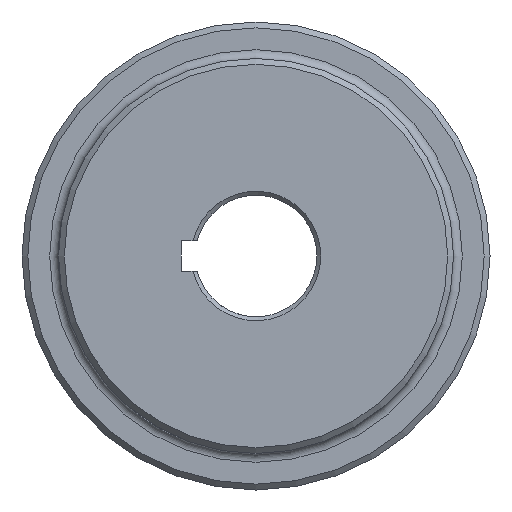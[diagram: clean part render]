
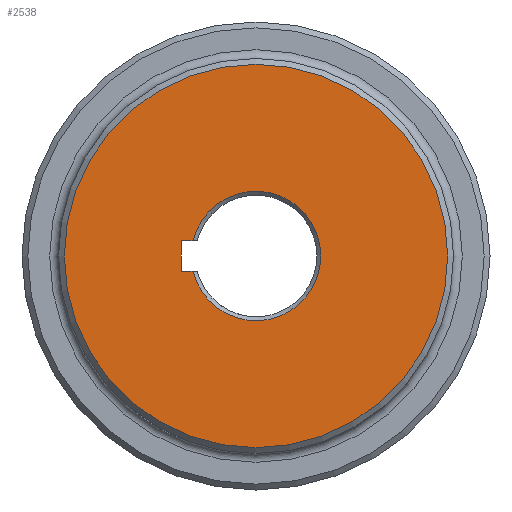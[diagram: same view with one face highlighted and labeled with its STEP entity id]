
A CAD part, left-side view. The second image highlights one B-rep face of the part: STEP entity #2538.
In plain terms, the highlighted planar face has unit normal (-1, 0, 0).
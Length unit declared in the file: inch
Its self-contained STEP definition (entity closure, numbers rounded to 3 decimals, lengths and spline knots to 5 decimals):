
#20 = DIRECTION ( 'NONE',  ( 0., 1., 0. ) ) ;
#77 = FACE_OUTER_BOUND ( 'NONE', #2687, .T. ) ;
#116 = EDGE_LOOP ( 'NONE', ( #317, #1576, #1918, #2028 ) ) ;
#231 = DIRECTION ( 'NONE',  ( 0., -1., 0. ) ) ;
#232 = CARTESIAN_POINT ( 'NONE',  ( 0., 0., -1.97 ) ) ;
#255 = DIRECTION ( 'NONE',  ( -1., 0., 0. ) ) ;
#284 = VERTEX_POINT ( 'NONE', #1498 ) ;
#317 = ORIENTED_EDGE ( 'NONE', *, *, #590, .F. ) ;
#319 = CARTESIAN_POINT ( 'NONE',  ( 0., 0.6467, -0.156 ) ) ;
#338 = EDGE_CURVE ( 'NONE', #2551, #2551, #2708, .T. ) ;
#341 = CARTESIAN_POINT ( 'NONE',  ( 0., 0., 0. ) ) ;
#388 = VECTOR ( 'NONE', #231, 39.37008 ) ;
#465 = LINE ( 'NONE', #1154, #2718 ) ;
#590 = EDGE_CURVE ( 'NONE', #876, #2226, #2744, .T. ) ;
#603 = DIRECTION ( 'NONE',  ( 0., 0., -1. ) ) ;
#648 = ORIENTED_EDGE ( 'NONE', *, *, #338, .T. ) ;
#689 = AXIS2_PLACEMENT_3D ( 'NONE', #1555, #2578, #2713 ) ;
#769 = EDGE_CURVE ( 'NONE', #284, #2706, #1177, .T. ) ;
#876 = VERTEX_POINT ( 'NONE', #2642 ) ;
#928 = AXIS2_PLACEMENT_3D ( 'NONE', #341, #255, #1462 ) ;
#1154 = CARTESIAN_POINT ( 'NONE',  ( 0., 0.76675, -0.156 ) ) ;
#1177 = LINE ( 'NONE', #2313, #388 ) ;
#1195 = CARTESIAN_POINT ( 'NONE',  ( 0., 0.76675, 0.156 ) ) ;
#1230 = CARTESIAN_POINT ( 'NONE',  ( 0., 0., 0.156 ) ) ;
#1434 = DIRECTION ( 'NONE',  ( 1., 0., 0. ) ) ;
#1462 = DIRECTION ( 'NONE',  ( 0., 0., -1. ) ) ;
#1498 = CARTESIAN_POINT ( 'NONE',  ( 0., 0.76675, -0.156 ) ) ;
#1555 = CARTESIAN_POINT ( 'NONE',  ( 0., 0., 0. ) ) ;
#1576 = ORIENTED_EDGE ( 'NONE', *, *, #2306, .T. ) ;
#1732 = EDGE_CURVE ( 'NONE', #2226, #284, #465, .T. ) ;
#1833 = FACE_BOUND ( 'NONE', #116, .T. ) ;
#1918 = ORIENTED_EDGE ( 'NONE', *, *, #769, .F. ) ;
#2019 = DIRECTION ( 'NONE',  ( 0., 0., -1. ) ) ;
#2028 = ORIENTED_EDGE ( 'NONE', *, *, #1732, .F. ) ;
#2070 = VECTOR ( 'NONE', #20, 39.37008 ) ;
#2226 = VERTEX_POINT ( 'NONE', #1195 ) ;
#2306 = EDGE_CURVE ( 'NONE', #876, #2706, #2571, .T. ) ;
#2313 = CARTESIAN_POINT ( 'NONE',  ( 0., 0., -0.156 ) ) ;
#2391 = AXIS2_PLACEMENT_3D ( 'NONE', #2488, #1434, #603 ) ;
#2488 = CARTESIAN_POINT ( 'NONE',  ( 0., 0., 0. ) ) ;
#2538 = ADVANCED_FACE ( 'NONE', ( #77, #1833 ), #2588, .F. ) ;
#2551 = VERTEX_POINT ( 'NONE', #232 ) ;
#2571 = CIRCLE ( 'NONE', #689, 0.66525 ) ;
#2578 = DIRECTION ( 'NONE',  ( 1., 0., 0. ) ) ;
#2588 = PLANE ( 'NONE',  #2391 ) ;
#2642 = CARTESIAN_POINT ( 'NONE',  ( 0., 0.6467, 0.156 ) ) ;
#2687 = EDGE_LOOP ( 'NONE', ( #648 ) ) ;
#2706 = VERTEX_POINT ( 'NONE', #319 ) ;
#2708 = CIRCLE ( 'NONE', #928, 1.97 ) ;
#2713 = DIRECTION ( 'NONE',  ( 0., 0., -1. ) ) ;
#2718 = VECTOR ( 'NONE', #2019, 39.37008 ) ;
#2744 = LINE ( 'NONE', #1230, #2070 ) ;
